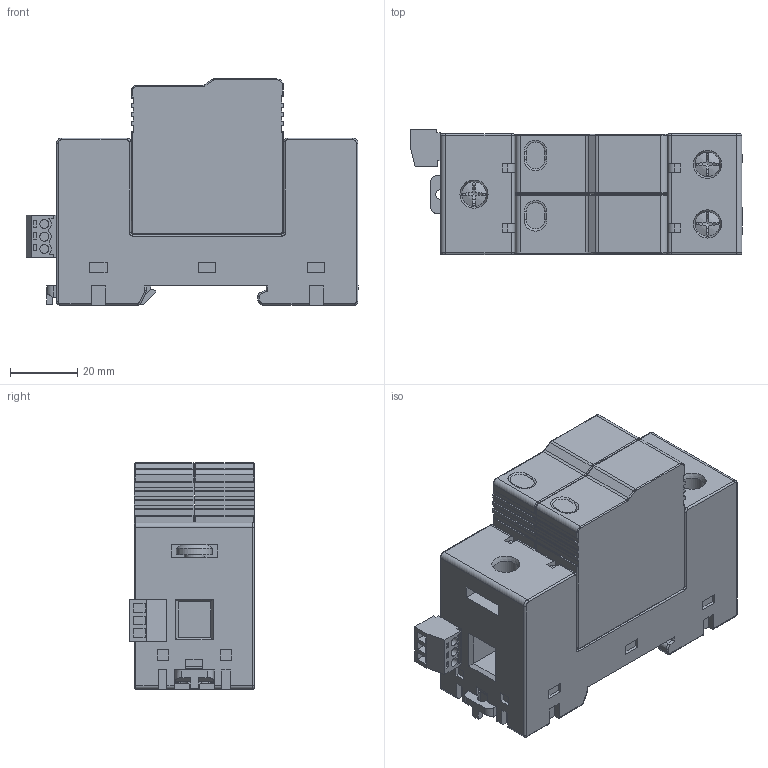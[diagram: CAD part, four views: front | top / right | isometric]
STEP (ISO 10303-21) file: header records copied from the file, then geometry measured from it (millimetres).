
FILE_DESCRIPTION (( 'STEP AP203' ), '1' );
FILE_NAME ('WTH-40_2P.STEP', '2023-05-28T08:08:37', ( 'a' ), ( '' ), 'SwSTEP 2.0', 'SolidWorks 2016', '' );
FILE_SCHEMA (( 'CONFIG_CONTROL_DESIGN' ));
Length unit declared in the file: millimetre
Products named in the file (1): WTH-40_2P
Bounding box: 99.1 x 37.4 x 67.5 mm (x, y, z)
Volume: 165786.3 mm3; surface area: 48161.4 mm2
Topology: 1 solids, 5 shells, 1073 faces, 2922 edges, 1849 vertices
Faces by surface type: plane 729, cylinder 222, bspline 91, cone 21, torus 10
Full cylindrical faces by diameter (mm): 2 x2, 2.7 x3, 4.48 x3, 5 x3, 6 x3, 7.4 x3, 10.8 x3
Entity records: 36078 total; most frequent: CARTESIAN_POINT 9612, ORIENTED_EDGE 5742, DIRECTION 5041, EDGE_CURVE 2871, VECTOR 2157, LINE 2157, VERTEX_POINT 1846, AXIS2_PLACEMENT_3D 1442
